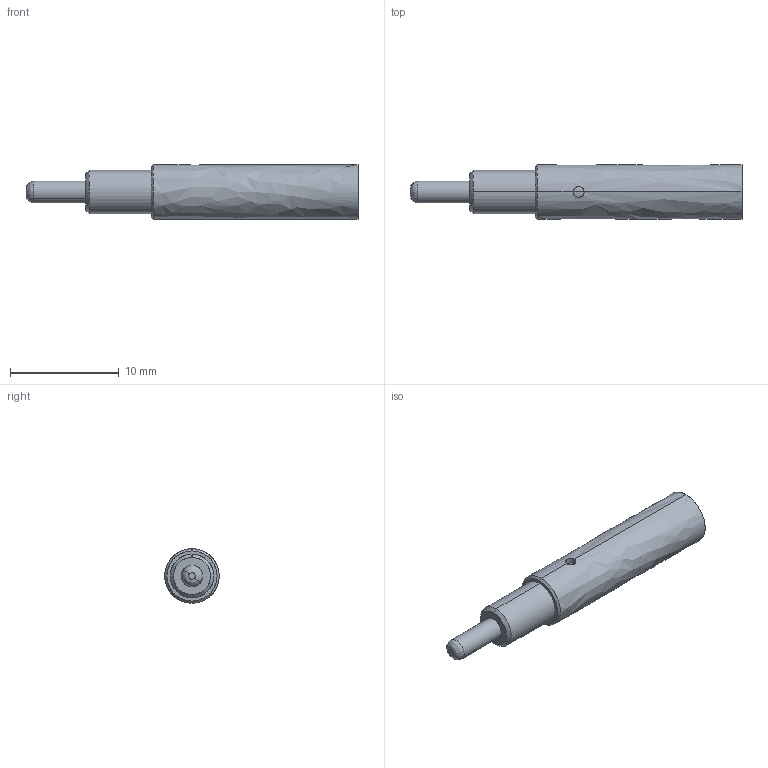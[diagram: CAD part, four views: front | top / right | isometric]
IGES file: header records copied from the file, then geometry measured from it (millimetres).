
Start section: SolidWorks IGES file using analytic representation for surfaces
Bounding box: 30.5 x 5 x 5 mm (x, y, z)
Surface area: 844.1 mm2 (no closed solid volume)
Topology: 0 solids, 0 shells, 56 faces, 866 edges, 992 vertices
Faces by surface type: revolution 38, bspline 18
